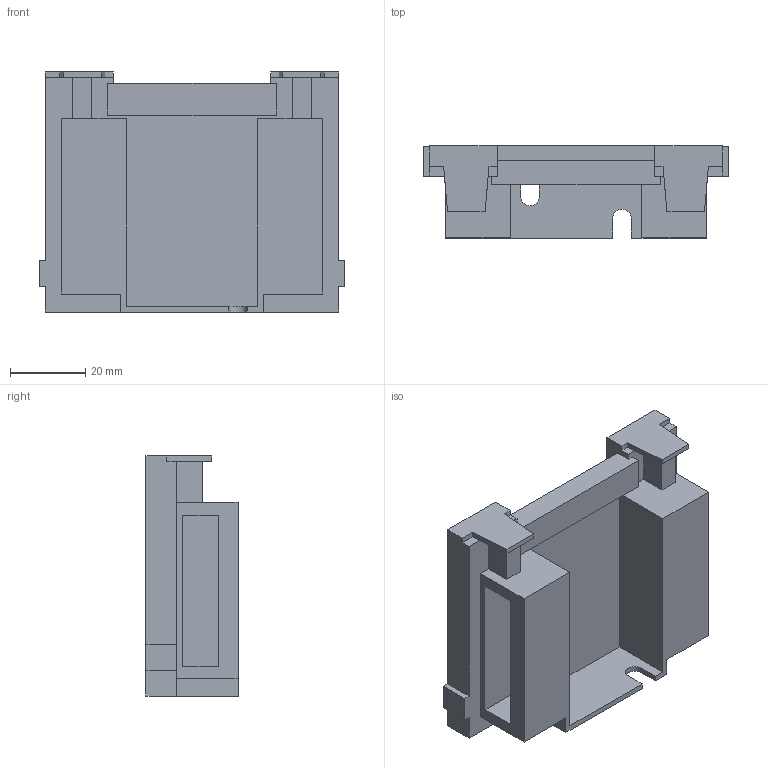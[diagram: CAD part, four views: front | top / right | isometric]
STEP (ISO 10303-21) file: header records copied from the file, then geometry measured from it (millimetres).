
FILE_DESCRIPTION (( 'STEP AP214' ), '1' );
FILE_NAME ('Verteilerkonsole P904T.STEP', '2010-10-18T10:56:04', ( 'grass' ), ( '' ), 'SwSTEP 2.0', 'SolidWorks 2010', '' );
FILE_SCHEMA (( 'AUTOMOTIVE_DESIGN' ));
Length unit declared in the file: millimetre
Products named in the file (1): Verteilerkonsole P904T
Bounding box: 81.4 x 24.55 x 64 mm (x, y, z)
Volume: 60461 mm3; surface area: 20665.3 mm2
Topology: 1 solids, 1 shells, 78 faces, 221 edges, 146 vertices
Faces by surface type: plane 75, cylinder 3
Entity records: 2517 total; most frequent: CARTESIAN_POINT 446, ORIENTED_EDGE 442, DIRECTION 385, EDGE_CURVE 221, VECTOR 215, LINE 215, VERTEX_POINT 146, AXIS2_PLACEMENT_3D 85
